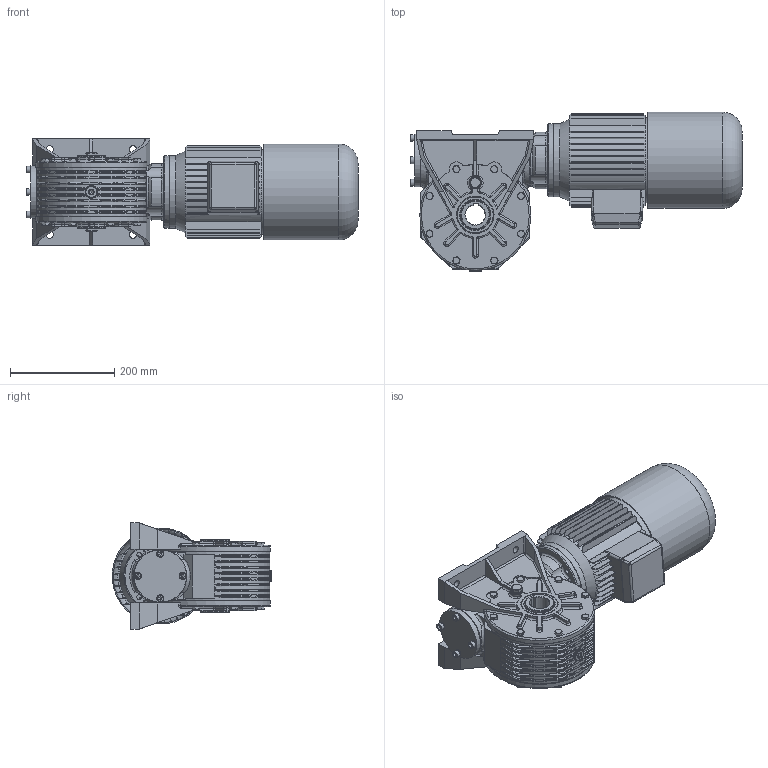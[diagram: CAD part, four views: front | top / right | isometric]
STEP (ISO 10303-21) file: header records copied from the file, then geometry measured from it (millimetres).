
FILE_DESCRIPTION((''),'2;1');
FILE_NAME('Y:\Archivi Inventor\Prog_01\GRAND_50\complessivi\Figurini\MRV50 sito\90s_autofrenante\mrv50_P1_90S_B14.stp','2013-02-08T10:31:30',('tech3'),(''),'Autodesk Inventor 2013','Autodesk Inventor 2013','');
FILE_SCHEMA(('AUTOMOTIVE_DESIGN { 1 0 10303 214 1 1 1 1 }'));
Length unit declared in the file: millimetre
Products named in the file (18): mrv50_90s_90l_b14; mrv50_fig; Figurino_carcassa_MRV50; 0105028; 0105029; figurino_corona_MRV50; figurino_0105010; Guarnizione 3_8 GAS; Tappo 3_8 GAS_esagn_incsst; Tappo3_8 GAS; figurino_0105009; ISO 4017 M8 x 20; 55_70_8; UNI 6592 8.4 x 14; UNI 5931  M 8 x  25; 0105006; DIN EN ISO 4762 M8 x 25; motori B14 brake 90S
Assembly tree (50 placements, depth 3):
  mrv50_90s_90l_b14
    mrv50_fig
      Figurino_carcassa_MRV50
      0105028  x2
      0105029  x2
      figurino_corona_MRV50
      figurino_0105010  x2
      Guarnizione 3_8 GAS  x4
      Tappo 3_8 GAS_esagn_incsst  x2
      Tappo3_8 GAS  x2
      figurino_0105009
      ISO 4017 M8 x 20  x16
      55_70_8  x2
      UNI 6592 8.4 x 14  x4
      UNI 5931  M 8 x  25  x4
    0105006
    DIN EN ISO 4762 M8 x 25  x4
    motori B14 brake 90S
Bounding box: 637.8 x 306.18 x 203.7 mm (x, y, z)
Volume: 10816125.7 mm3; surface area: 1329591.2 mm2
Topology: 62 solids, 64 shells, 2125 faces, 5049 edges, 2996 vertices
Faces by surface type: plane 917, cylinder 619, cone 228, bspline 162, torus 161, sphere 38
Full cylindrical faces by diameter (mm): 2 x2, 5 x1, 6.647 x28, 8 x26, 8.4 x4, 8.5 x48, 9 x4, 11.63 x16, 13 x12, 13.046 x2, 14 x12, 14.95 x4, 16.3 x4, 16.5 x2, 22 x8, 24 x3, 55 x1, 60 x1, 66.4 x2, 69 x2, 70 x6, 72 x4, 73 x2, 75 x1, 95 x1, 99.5 x2, 101 x1, 102 x2, 140 x2, 162.8 x1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
Entity records: 49780 total; most frequent: CARTESIAN_POINT 16579, DIRECTION 6850, ORIENTED_EDGE 6340, EDGE_CURVE 3170, AXIS2_PLACEMENT_3D 2681, VERTEX_POINT 2036, EDGE_LOOP 1794, VECTOR 1488
